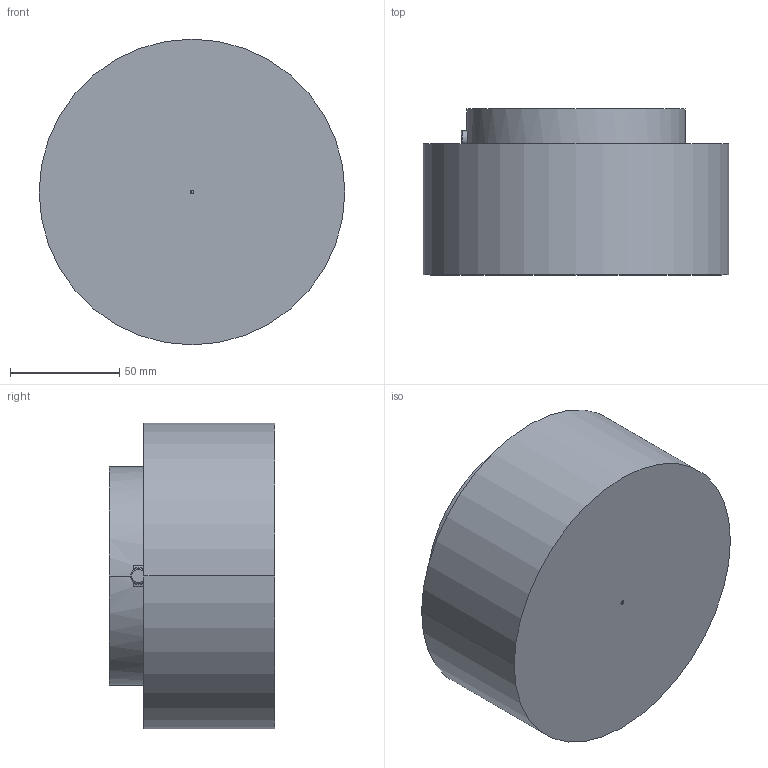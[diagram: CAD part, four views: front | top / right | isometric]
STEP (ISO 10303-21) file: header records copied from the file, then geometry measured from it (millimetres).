
FILE_DESCRIPTION((''),'2;1');
FILE_NAME('S44G101.stp','2020-09-19T08:42:24',(''),(''),'AutoCAD STEP 2000i','AutoCAD 2000i',', , ');
FILE_SCHEMA(('CONFIG_CONTROL_DESIGN'));
Length unit declared in the file: millimetre
Products named in the file (4): DRAWING1; MOLD BODY 101G44; NOZZLE S101G44; RING 44-2018
Assembly tree (3 placements, depth 2):
  DRAWING1
    MOLD BODY 101G44
    NOZZLE S101G44
    RING 44-2018
Bounding box: 140 x 76 x 140 mm (x, y, z)
Volume: 1027347.4 mm3; surface area: 99692.2 mm2
Topology: 3 solids, 3 shells, 162 faces, 378 edges, 228 vertices
Faces by surface type: cone 76, cylinder 46, plane 18, bspline 14, torus 8
Entity records: 5389 total; most frequent: CARTESIAN_POINT 1434, DIRECTION 906, ORIENTED_EDGE 748, AXIS2_PLACEMENT_3D 387, EDGE_CURVE 374, CIRCLE 235, VERTEX_POINT 228, EDGE_LOOP 182
